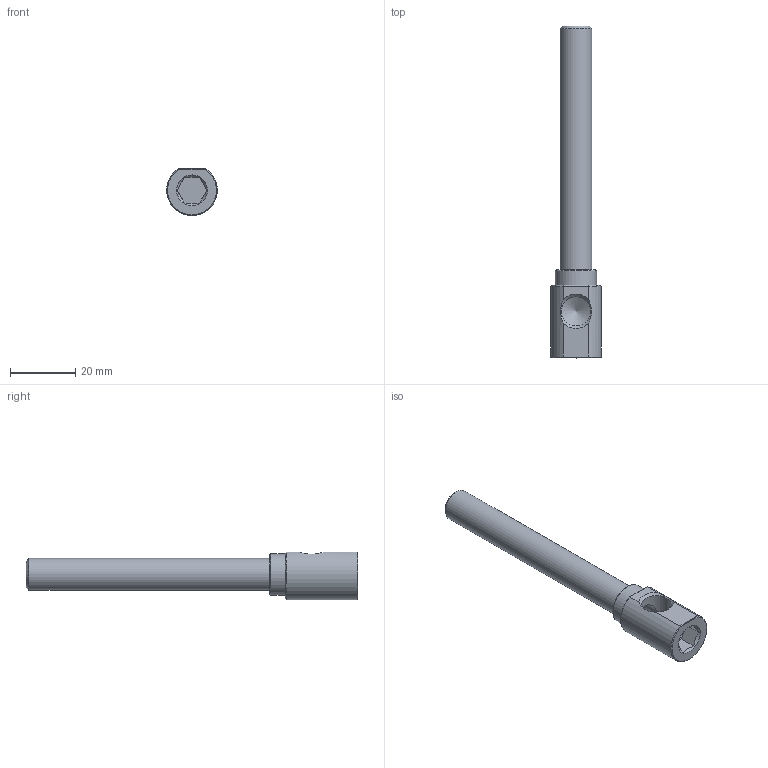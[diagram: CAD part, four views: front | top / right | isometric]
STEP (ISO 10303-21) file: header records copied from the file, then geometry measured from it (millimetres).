
FILE_DESCRIPTION(/* description */ (''),/* implementation_level */ '2;1');
FILE_NAME(/* name */ 'C:/Users/drich/Desktop/EKL18 X 4 v2.step',/* time_stamp */ '2019-11-18T14:39:41-06:00',/* author */ (''),/* organization */ (''),/* preprocessor_version */ 'ST-DEVELOPER v18',/* originating_system */ 'Autodesk Translation Framework v8.12.0.6',/* authorisation */ '');
FILE_SCHEMA (('AUTOMOTIVE_DESIGN { 1 0 10303 214 3 1 1 }'));
Length unit declared in the file: inch
Products named in the file (2): EKL18 X 4; EKL18 X 4_1
Assembly tree (1 placements, depth 2):
  EKL18 X 4
    EKL18 X 4_1
Bounding box: 15.49 x 101.6 x 14.48 mm (x, y, z)
Volume: 6470.4 mm3; surface area: 6010.2 mm2
Topology: 1 solids, 1 shells, 30 faces, 80 edges, 55 vertices
Faces by surface type: plane 16, cone 8, cylinder 6
Full cylindrical faces by diameter (mm): 6.35 x1, 9.004 x1, 9.398 x1, 9.794 x1, 12.7 x1
Entity records: 1047 total; most frequent: CARTESIAN_POINT 256, ORIENTED_EDGE 158, DIRECTION 151, EDGE_CURVE 79, AXIS2_PLACEMENT_3D 60, VERTEX_POINT 55, EDGE_LOOP 36, LINE 31
